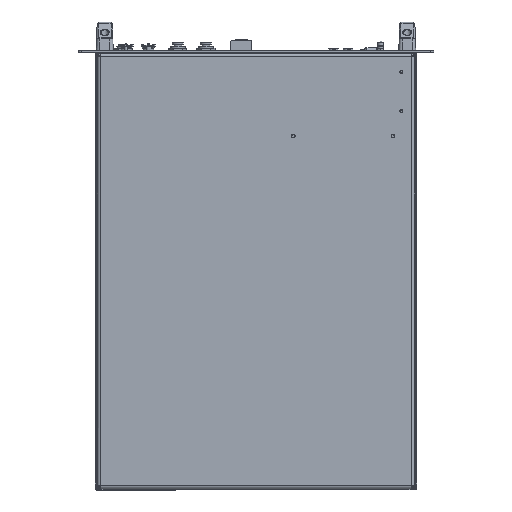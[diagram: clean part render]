
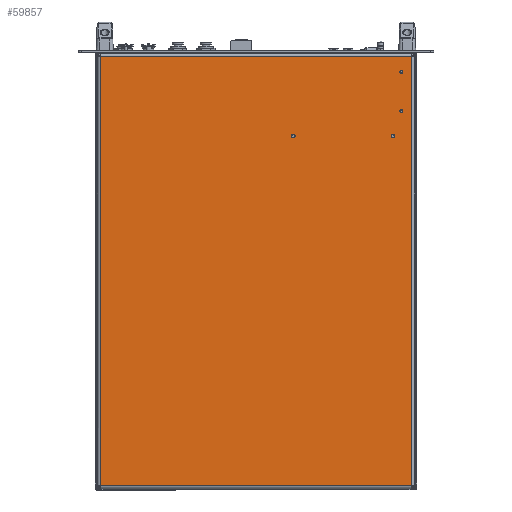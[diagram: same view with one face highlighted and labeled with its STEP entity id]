
A CAD part, front view. The second image highlights one B-rep face of the part: STEP entity #59857.
In plain terms, the highlighted planar face has unit normal (0, -1, 0).
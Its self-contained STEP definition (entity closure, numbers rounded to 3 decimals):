
#3680=FACE_BOUND('',#9978,.T.);
#3681=FACE_BOUND('',#9979,.T.);
#3682=FACE_BOUND('',#9980,.T.);
#3683=FACE_BOUND('',#9981,.T.);
#4318=PLANE('',#64059);
#6439=FACE_OUTER_BOUND('',#9977,.T.);
#9977=EDGE_LOOP('',(#42675,#42676,#42677,#42678));
#9978=EDGE_LOOP('',(#42679));
#9979=EDGE_LOOP('',(#42680));
#9980=EDGE_LOOP('',(#42681));
#9981=EDGE_LOOP('',(#42682));
#14152=LINE('',#84518,#19819);
#14173=LINE('',#84713,#19840);
#14197=LINE('',#84875,#19864);
#14198=LINE('',#84877,#19865);
#19819=VECTOR('',#69557,10.);
#19840=VECTOR('',#69620,10.);
#19864=VECTOR('',#69710,10.);
#19865=VECTOR('',#69713,10.);
#24978=CIRCLE('',#63749,2.);
#24980=CIRCLE('',#63752,1.5);
#24982=CIRCLE('',#63755,1.5);
#24984=CIRCLE('',#63758,2.);
#26627=VERTEX_POINT('',#83500);
#26629=VERTEX_POINT('',#83506);
#26631=VERTEX_POINT('',#83512);
#26633=VERTEX_POINT('',#83518);
#26853=VERTEX_POINT('',#84351);
#26871=VERTEX_POINT('',#84438);
#26877=VERTEX_POINT('',#84517);
#26889=VERTEX_POINT('',#84705);
#32481=EDGE_CURVE('',#26627,#26627,#24978,.T.);
#32484=EDGE_CURVE('',#26629,#26629,#24980,.T.);
#32487=EDGE_CURVE('',#26631,#26631,#24982,.T.);
#32490=EDGE_CURVE('',#26633,#26633,#24984,.T.);
#32927=EDGE_CURVE('',#26877,#26871,#14152,.T.);
#32962=EDGE_CURVE('',#26853,#26889,#14173,.T.);
#33002=EDGE_CURVE('',#26877,#26889,#14197,.T.);
#33003=EDGE_CURVE('',#26871,#26853,#14198,.T.);
#42675=ORIENTED_EDGE('',*,*,#32927,.T.);
#42676=ORIENTED_EDGE('',*,*,#33003,.T.);
#42677=ORIENTED_EDGE('',*,*,#32962,.T.);
#42678=ORIENTED_EDGE('',*,*,#33002,.F.);
#42679=ORIENTED_EDGE('',*,*,#32481,.T.);
#42680=ORIENTED_EDGE('',*,*,#32484,.T.);
#42681=ORIENTED_EDGE('',*,*,#32487,.T.);
#42682=ORIENTED_EDGE('',*,*,#32490,.T.);
#59857=ADVANCED_FACE('',(#6439,#3680,#3681,#3682,#3683),#4318,.T.);
#63749=AXIS2_PLACEMENT_3D('',#83501,#68671,#68672);
#63752=AXIS2_PLACEMENT_3D('',#83507,#68678,#68679);
#63755=AXIS2_PLACEMENT_3D('',#83513,#68685,#68686);
#63758=AXIS2_PLACEMENT_3D('',#83519,#68692,#68693);
#64059=AXIS2_PLACEMENT_3D('',#84876,#69711,#69712);
#68671=DIRECTION('center_axis',(0.,1.,0.));
#68672=DIRECTION('ref_axis',(-1.,0.,0.));
#68678=DIRECTION('center_axis',(0.,1.,0.));
#68679=DIRECTION('ref_axis',(-1.,0.,0.));
#68685=DIRECTION('center_axis',(0.,1.,0.));
#68686=DIRECTION('ref_axis',(-1.,0.,0.));
#68692=DIRECTION('center_axis',(0.,1.,0.));
#68693=DIRECTION('ref_axis',(-1.,0.,0.));
#69557=DIRECTION('',(0.,0.,1.));
#69620=DIRECTION('',(0.,0.,-1.));
#69710=DIRECTION('',(-1.,0.,0.));
#69711=DIRECTION('center_axis',(0.,-1.,0.));
#69712=DIRECTION('ref_axis',(0.,0.,-1.));
#69713=DIRECTION('',(-1.,0.,0.));
#83500=CARTESIAN_POINT('',(187.5,0.,183.));
#83501=CARTESIAN_POINT('Origin',(185.5,0.,183.));
#83506=CARTESIAN_POINT('',(198.5,0.,270.));
#83507=CARTESIAN_POINT('Origin',(197.,0.,270.));
#83512=CARTESIAN_POINT('',(198.5,0.,216.7));
#83513=CARTESIAN_POINT('Origin',(197.,0.,216.7));
#83518=CARTESIAN_POINT('',(52.5,0.,183.));
#83519=CARTESIAN_POINT('Origin',(50.5,0.,183.));
#84351=CARTESIAN_POINT('',(-211.,0.,291.));
#84438=CARTESIAN_POINT('',(211.,0.,291.));
#84517=CARTESIAN_POINT('',(211.,0.,-291.));
#84518=CARTESIAN_POINT('',(211.,0.,-139.619));
#84705=CARTESIAN_POINT('',(-211.,0.,-291.));
#84713=CARTESIAN_POINT('',(-211.,0.,151.381));
#84875=CARTESIAN_POINT('',(0.,0.,-291.));
#84876=CARTESIAN_POINT('Origin',(0.,0.,
11.762));
#84877=CARTESIAN_POINT('',(0.,0.,291.));
